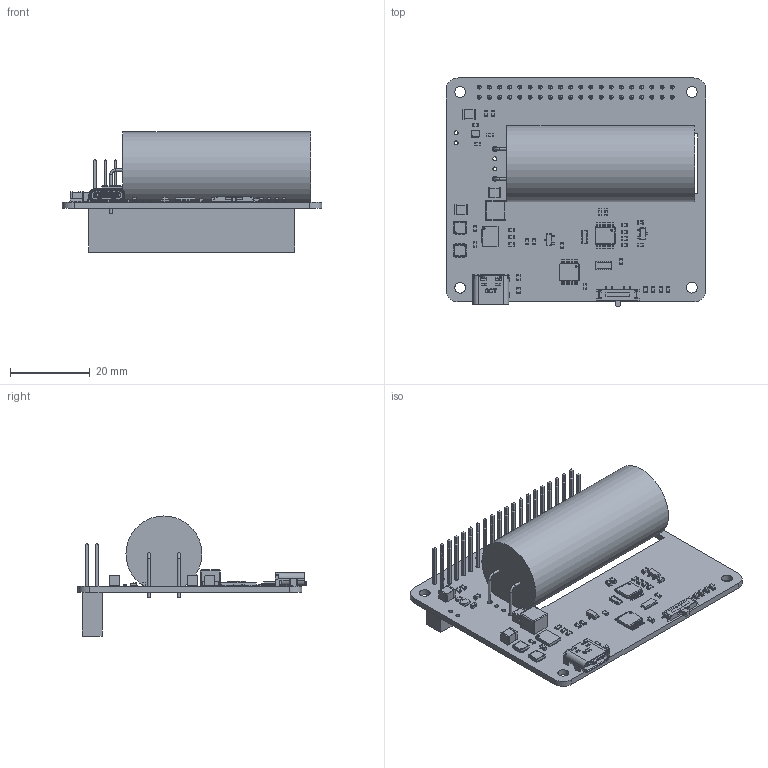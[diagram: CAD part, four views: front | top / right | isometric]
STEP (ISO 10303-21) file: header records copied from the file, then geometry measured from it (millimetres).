
FILE_DESCRIPTION(('KiCad electronic assembly'),'2;1');
FILE_NAME('stubborn-balance-lite-850f.step','2026-06-04T18:24:21',( 'Pcbnew'),('Kicad'),'Open CASCADE STEP processor 7.6', 'KiCad to STEP converter','Unknown');
FILE_SCHEMA(('AUTOMOTIVE_DESIGN { 1 0 10303 214 1 1 1 1 }'));
Length unit declared in the file: millimetre
Products named in the file (37): stubborn-balance-lite-850f 1; R_0603_1608Metric; C_0603_1608Metric; C_1210_3225Metric; L_APV_ANR5040; TC33X-2-103E-withcolor; LED_0603_1608Metric; SOT-23; DMN1004UFV-7; AP22800HB-7; Body; ThermalPin; PinsArrayLR; RN8-EXB-2HV; Pins; TSSOP-14_4.4x5mm_P0.65mm; supercap850; Cut; Cut001; SimpleBody; R_Cat16-4; PCM13SMTR-withcolor; PCM13SMTR_PART1; PCM13SMTR_PART2; USB4105-withcolor; HSG_ÃÂ¬ÃÃ; Shell_0.95; LTC4041EUFD#PBF; PinsArrayTB; SPH-2x20P; LeadsArray; qUPS-P-HC_PCB
Assembly tree (67 placements, depth 3):
  stubborn-balance-lite-850f 1
    R_0603_1608Metric  x16
    C_0603_1608Metric  x8
    C_1210_3225Metric  x3
    L_APV_ANR5040
    TC33X-2-103E-withcolor
    LED_0603_1608Metric  x5
    SOT-23  x2
    DMN1004UFV-7  x2
    AP22800HB-7
      Body
      ThermalPin
      PinsArrayLR
    RN8-EXB-2HV
      Body
      Pins
    TSSOP-14_4.4x5mm_P0.65mm  x2
    supercap850
      Cut
      Cut001
      SimpleBody
    R_Cat16-4
    PCM13SMTR-withcolor
      PCM13SMTR_PART1
      PCM13SMTR_PART2
    USB4105-withcolor
      HSG_ÃÂ¬ÃÃ
      Shell_0.95
    LTC4041EUFD#PBF
      Body
      ThermalPin
      PinsArrayLR
      PinsArrayTB
    SPH-2x20P
      Body
      LeadsArray
    qUPS-P-HC_PCB
Bounding box: 65 x 57.05 x 30.03 mm (x, y, z)
Volume: 20984.5 mm3; surface area: 15716.5 mm2
Topology: 154 solids, 154 shells, 4191 faces, 10642 edges, 6815 vertices
Faces by surface type: plane 3270, cylinder 794, bspline 73, cone 48, sphere 4, torus 2
Full cylindrical faces by diameter (mm): 0.202 x1, 0.4 x6, 0.5 x1, 0.6 x6, 0.9 x2, 1 x44, 1.2 x2, 2.7 x4, 19 x1
Entity records: 87710 total; most frequent: CARTESIAN_POINT 17544, ORIENTED_EDGE 14620, DIRECTION 13531, EDGE_CURVE 7310, LINE 6075, VECTOR 6075, VERTEX_POINT 4667, AXIS2_PLACEMENT_3D 3728
